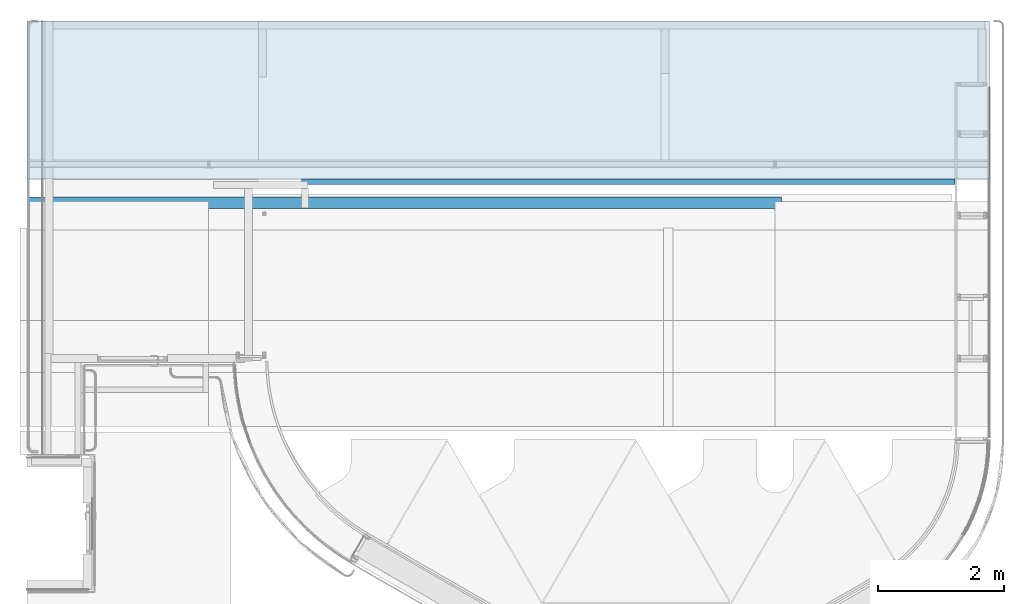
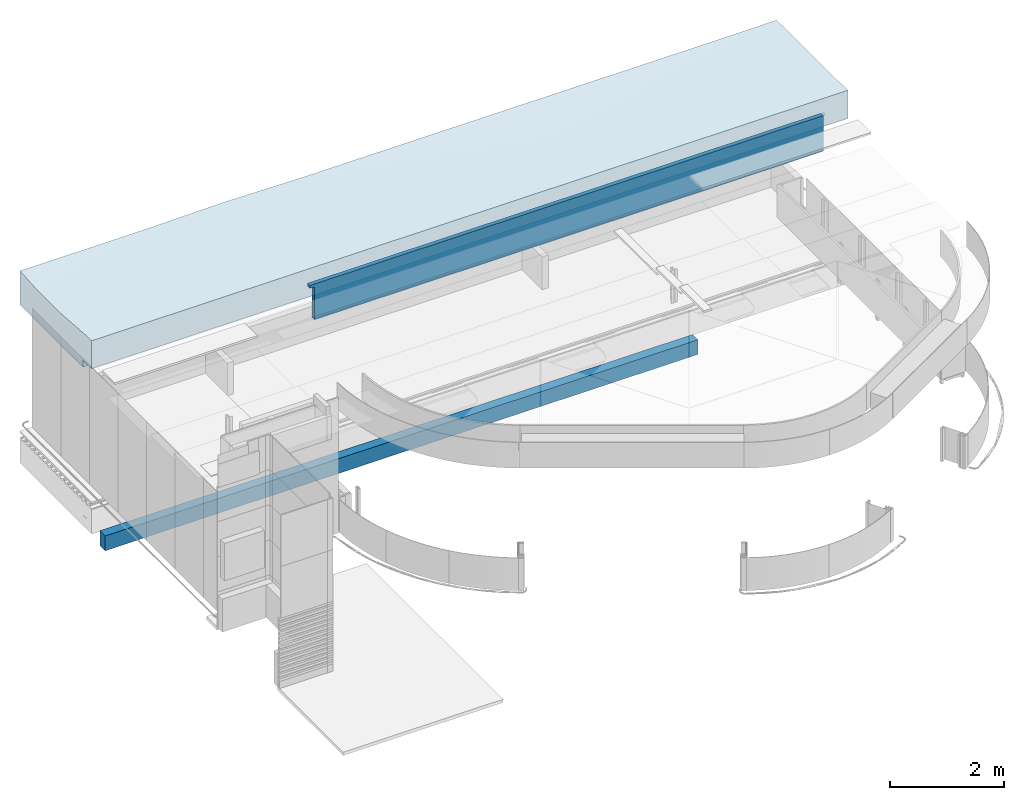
# One storey, part 15 of 18: 2 walls, 1 roof.
"""IFC2X3 building model written with IfcOpenShell, lengths in millimetres."""

from ifc_helpers import new_model, entity, si_unit, converted_unit, derived_unit, direction, frame, origin_with_axes, place, context, subcontext, project, spatial, faceted_brep, material, layer, layer_set, type_object, element, save


model = new_model("IFC2X3")

# Units and contexts
model_context = context("Model", 3, precision=0.01, world=frame((0.0, 4.29681676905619e-09, 0.0)), true_north=direction((4.01073788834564e-13, 1.0)))
plan_context = context("Plan", 3, precision=0.01, world=frame((0.0, 4.29681676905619e-09, 0.0)), true_north=direction((4.01073788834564e-13, 1.0)))
body_context = subcontext(model_context, "Body", "Model", "MODEL_VIEW")
ifc_project = project(units=[converted_unit("PLANEANGLEUNIT", "DEGREE", entity("IfcPositiveLengthMeasure", 0.0174532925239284), si_unit("PLANEANGLEUNIT", "RADIAN"), dimensions=[0, 0, 0, 0, 0, 0, 0]), si_unit("AREAUNIT", "SQUARE_METRE"), si_unit("LENGTHUNIT", "METRE", prefix="MILLI"), si_unit("MASSUNIT", "GRAM", prefix="KILO"), si_unit("POWERUNIT", "WATT"), si_unit("PRESSUREUNIT", "PASCAL"), si_unit("FORCEUNIT", "NEWTON", prefix="KILO"), si_unit("ELECTRICVOLTAGEUNIT", "VOLT"), si_unit("ELECTRICCURRENTUNIT", "AMPERE"), si_unit("THERMODYNAMICTEMPERATUREUNIT", "DEGREE_CELSIUS"), si_unit("TIMEUNIT", "SECOND"), si_unit("VOLUMEUNIT", "CUBIC_METRE"), derived_unit("LINEARVELOCITYUNIT", [(si_unit("LENGTHUNIT", "METRE"), 1), (si_unit("TIMEUNIT", "SECOND"), -1)]), derived_unit("VOLUMETRICFLOWRATEUNIT", [(si_unit("VOLUMEUNIT", "CUBIC_METRE"), 1), (si_unit("TIMEUNIT", "SECOND"), -1)]), derived_unit("THERMALTRANSMITTANCEUNIT", [(si_unit("POWERUNIT", "WATT"), 1), (si_unit("THERMODYNAMICTEMPERATUREUNIT", "KELVIN"), -1), (si_unit("AREAUNIT", "SQUARE_METRE"), -1)]), derived_unit("SOUNDPRESSUREUNIT", [(si_unit("PRESSUREUNIT", "PASCAL"), 1)])], contexts=[model_context, plan_context])

# Site, building, storey
site_placement = place(None, origin_with_axes())
site = spatial("IfcSite", under=ifc_project, at=site_placement, Name="ENGM", CompositionType="ELEMENT")
building_placement = place(site_placement, origin_with_axes())
building = spatial("IfcBuilding", under=site, at=building_placement, Name="TH", CompositionType="ELEMENT")
storey_placement = place(building_placement, frame((0.0, 0.0, 210200.0), z_axis=(0.0, 0.0, 1.0), x_axis=(1.0, 0.0, 0.0)))
storey = spatial("IfcBuildingStorey", under=building, at=storey_placement, Name="Nivå F - 0,7 m", CompositionType="ELEMENT", Elevation=210200.0)

# Walls
ifc_material_1 = material(Name="_NSW Isolasjon")
ifc_layer_1 = layer(ifc_material_1, 185.0)
ifc_layer_set_1 = layer_set([ifc_layer_1], Name="Basic Wall:A231 - Yttervegg - Isolasjonsjikt 185mm")
wall_type_1 = type_object("IfcWallType", Name="Basic Wall:A231 - Yttervegg - Isolasjonsjikt 185mm", PredefinedType="STANDARD", material=ifc_layer_set_1)
wall_1_placement = place(storey_placement, frame((884585.22914639, 484467.499999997, -750.0), z_axis=(0.0, 0.0, 1.0), x_axis=(1.0, 0.0, 0.0)))
element("IfcWall", 1, at=wall_1_placement, inside=storey, type_object=wall_type_1, Name="Basic Wall:A231 - Yttervegg - Isolasjonsjikt 185mm", ObjectType="Basic Wall:A231 - Yttervegg - Isolasjonsjikt 185mm", context=body_context, shape_type="Brep", body=[
    faceted_brep([(22514.7708536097, -92.4999999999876, 0.0), (22514.7708536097, -92.4999999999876, 314.99999999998), (22514.7708536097, 92.4999999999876, 314.99999999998), (22514.7708536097, 92.4999999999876, 0.0), (10526.6770221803, 92.4999999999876, 314.99999999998), (10526.6770221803, 92.4999999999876, 0.0), (10526.6770221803, -92.4999999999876, 0.0), (10526.6770221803, -92.4999999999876, 314.99999999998)], [[[0, 1, 2, 3]], [[4, 5, 3, 2]], [[6, 7, 1, 0]], [[5, 6, 0, 3]], [[7, 4, 2, 1]], [[7, 6, 5, 4]]], orient=[[False], [False], [False], [False], [False], [False]]),
])
ifc_material_2 = material(Name="Plate - Gips")
ifc_layer_2 = layer(ifc_material_2, 12.5)
ifc_material_3 = material(Name="_NSW Stålstender, uisolert")
ifc_layer_3 = layer(ifc_material_3, 75.0)
ifc_layer_set_2 = layer_set([ifc_layer_2, ifc_layer_3], Name="Basic Wall:A241 - Skjørt (SV-75 S) 3")
wall_type_2 = type_object("IfcWallType", Name="Basic Wall:A241 - Skjørt (SV-75 S) 3", PredefinedType="STANDARD", material=ifc_layer_set_2)
wall_2_placement = place(storey_placement, frame((899472.999609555, 484800.905859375, 2400.0), z_axis=(0.0, 0.0, 1.0), x_axis=(1.0, 0.0, 0.0)))
element("IfcWall", 2, at=wall_2_placement, inside=storey, type_object=wall_type_2, Name="Basic Wall:A241 - Skjørt (SV-75 S) 3", ObjectType="Basic Wall:A241 - Skjørt (SV-75 S) 3", context=body_context, shape_type="Brep", body=[
    faceted_brep([(94.141926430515, -43.75, 0.0), (112.5, -43.75, 0.0), (10385.5003904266, -43.75, 0.0), (10385.5003904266, -43.75, 760.918527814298), (0.0, -43.75, 760.918527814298), (0.0, -43.75, 705.0), (0.0, -43.75, 700.0), (94.141926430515, -43.75, 700.0), (94.141926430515, 43.75, 0.0), (94.141926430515, 43.75, 700.0), (0.0, 43.75, 700.0), (0.0, 43.75, 760.918527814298), (10385.5003904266, 43.75, 760.918527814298), (10385.5003904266, 43.75, 0.0), (94.141926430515, 8.40585937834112, 700.0)], [[[0, 1, 2, 3, 4, 5, 6, 7]], [[8, 9, 10, 11, 12, 13]], [[2, 1, 0, 8, 13]], [[4, 3, 12, 11]], [[0, 7, 14, 9, 8]], [[6, 10, 9, 14, 7]], [[6, 5, 4, 11, 10]], [[3, 2, 13, 12]]]),
])

# Roof
roof_placement = place(storey_placement, frame((886885.263235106, 484850.299999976, 2700.0), z_axis=(0.0, 0.0, 1.0), x_axis=(1.0, 0.0, 0.0)))
element("IfcRoof", 3, at=roof_placement, inside=storey, Name="Basic Roof:A260 - Tak - 570mm", ObjectType="Basic Roof:A260 - Tak - 570mm", ShapeType="NOTDEFINED", context=body_context, shape_type="Brep", body=[
    faceted_brep([(23525.3216066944, 305.783454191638, 0.0), (23525.3216066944, 2507.35000003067, 1.13686837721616e-13), (8226.64293346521, 2507.35000003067, 1.13686837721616e-13), (8226.64293346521, 305.783454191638, 0.0), (8226.64293346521, 0.0, 151.515846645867), (8226.64293346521, 0.0, 751.600000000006), (23525.3216066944, 0.0, 751.600000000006), (23525.3216066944, 0.0, 151.515846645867), (8226.64293346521, 153.0, 751.599999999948), (23525.3216066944, 153.0, 751.599999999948), (8226.64293346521, 1944.88842732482, 683.935527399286), (8226.64293346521, 2507.35000003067, 725.991087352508), (10777.878307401, 2507.35000003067, 725.991087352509), (8226.64293346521, 1072.8477566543, 683.935527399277), (12331.4033087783, 2507.35000003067, 751.599999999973), (12331.4033087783, 153.0, 751.599999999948), (13884.9283101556, 2507.35000003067, 725.991087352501), (18397.7483456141, 1512.42500000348, 651.599999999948), (23525.3216066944, 391.098683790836, 734.08533874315), (23022.1550121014, 2507.35000003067, 725.99108735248), (23525.3216066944, 2507.35000003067, 734.08533874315), (8226.64293346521, 305.783454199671, 151.515846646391), (23525.3216066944, 305.783454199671, 151.515846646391)], [[[0, 1, 2, 3]], [[4, 5, 6, 7]], [[5, 8, 9, 6]], [[10, 11, 12]], [[13, 10, 12, 14, 15]], [[8, 13, 15]], [[14, 16, 17, 15]], [[18, 9, 15, 17]], [[19, 20, 18, 17]], [[16, 19, 17]], [[3, 21, 22, 0]], [[7, 22, 21, 4]], [[1, 0, 22, 7, 6, 9, 18, 20]], [[20, 19, 16, 14, 12, 11, 2, 1]], [[11, 10, 13, 8, 5, 4, 21, 3, 2]]], orient=[[False], [False], [False], [False], [False], [False], [False], [False], [False], [False], [False], [False], [False], [False], [False]]),
])

save(model, "model.ifc")
